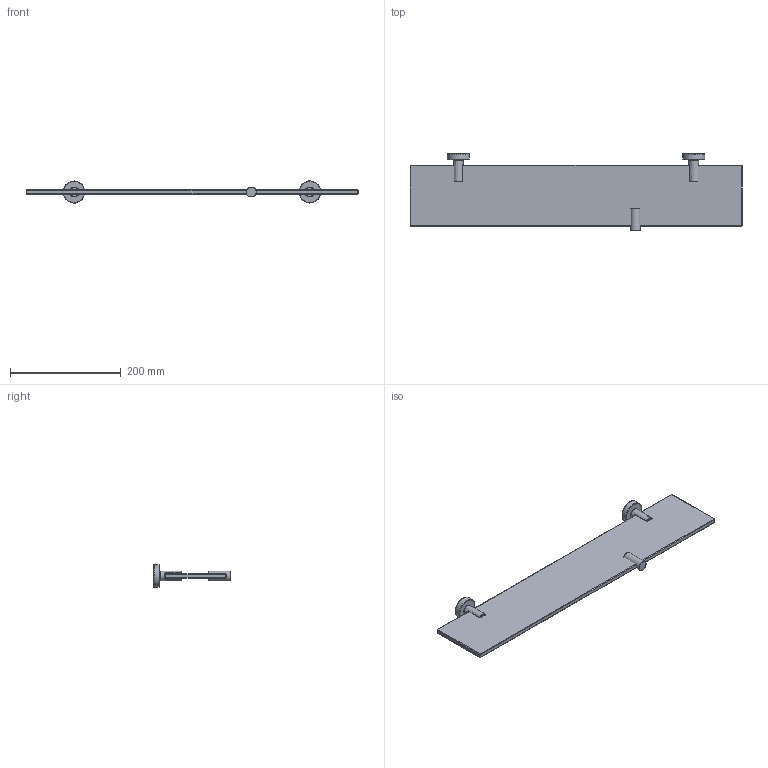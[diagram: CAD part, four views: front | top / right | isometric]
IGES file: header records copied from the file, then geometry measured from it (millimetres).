
Global section: file name: C:\Documents and Settings\Filippo.SARA\Desktop\II\TR114.igs; native system: Rhinoceros ( Dec 20 2002 ); preprocessor: Trout Lake IGES 012 Dec 20 2002; date: 100706.081546; units: millimetre
Bounding box: 600 x 139 x 40 mm (x, y, z)
Surface area: 158460.4 mm2 (no closed solid volume)
Topology: 0 solids, 0 shells, 97 faces, 552 edges, 542 vertices
Faces by surface type: bspline 97
